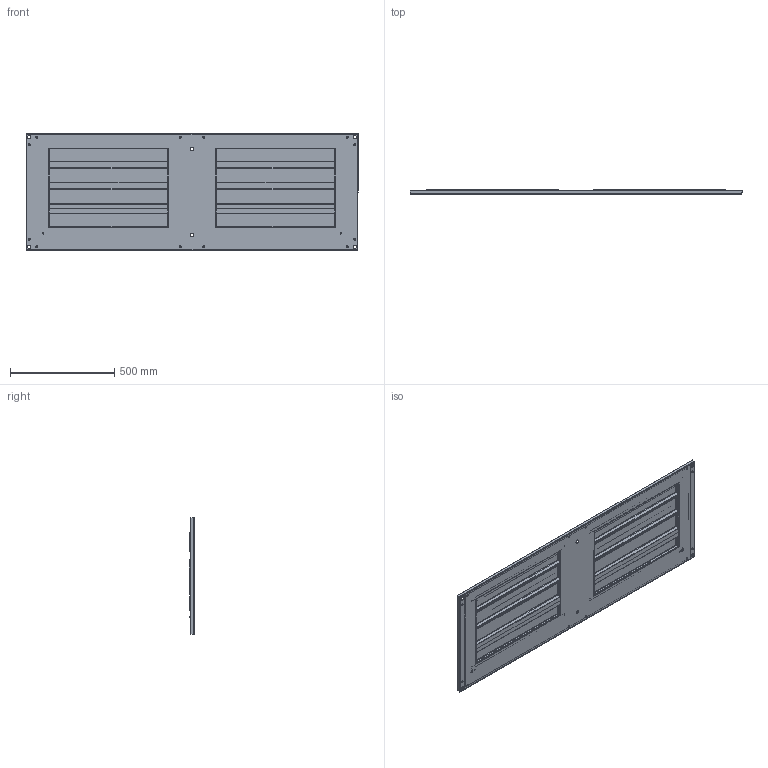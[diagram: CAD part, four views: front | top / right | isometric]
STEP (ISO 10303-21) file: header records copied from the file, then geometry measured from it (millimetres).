
FILE_DESCRIPTION (( 'STEP AP203' ), '1' );
FILE_NAME ('p2bgp166g.STEP', '2016-06-07T18:49:01', ( '' ), ( '' ), 'SwSTEP 2.0', 'SolidWorks 2014', '' );
FILE_SCHEMA (( 'CONFIG_CONTROL_DESIGN' ));
Length unit declared in the file: millimetre
Products named in the file (11): 89129619_89001805; 87931527_87931527; 87931368_SLEEVE; 60100041_60100041; 89129618; 89128472; 89128470; 89128541; 89129620; 89131209_BBD; p2bgp166g
Assembly tree (20 placements, depth 5):
  p2bgp166g
    89131209_BBD
      89129618
        89129619_89001805
        60100041_60100041  x2
          87931527_87931527
          87931368_SLEEVE
      89128472  x4
      89128470  x4
      89128541  x4
      89129620
Bounding box: 1590 x 24.3 x 560 mm (x, y, z)
Volume: 3507615.9 mm3; surface area: 2830466.7 mm2
Topology: 18 solids, 18 shells, 1296 faces, 3023 edges, 1834 vertices
Faces by surface type: plane 539, cylinder 492, torus 240, bspline 13, cone 12
Entity records: 27633 total; most frequent: DIRECTION 5039, CARTESIAN_POINT 4699, ORIENTED_EDGE 4108, AXIS2_PLACEMENT_3D 2106, EDGE_CURVE 2054, VERTEX_POINT 1242, CIRCLE 1195, EDGE_LOOP 1140
